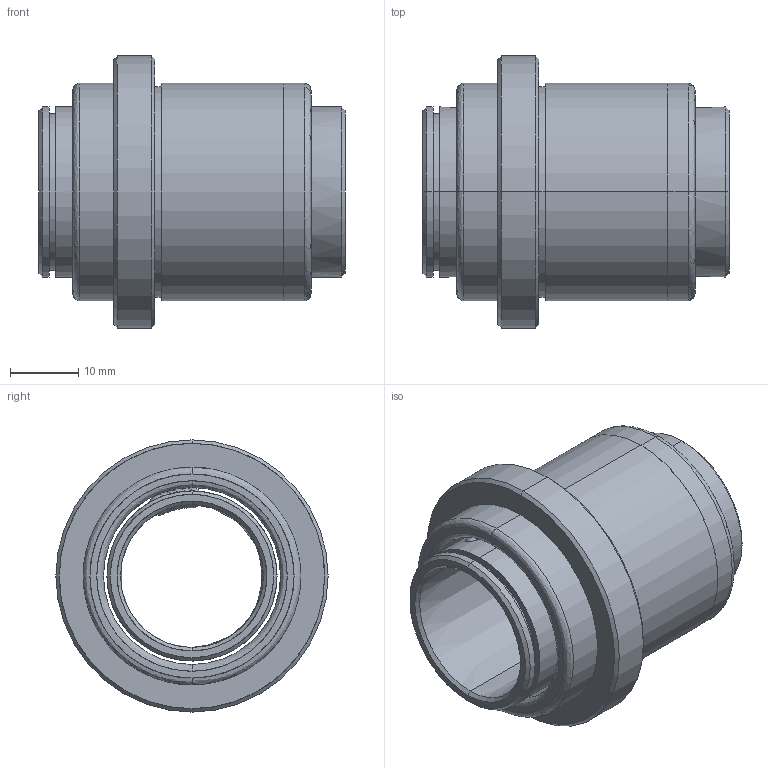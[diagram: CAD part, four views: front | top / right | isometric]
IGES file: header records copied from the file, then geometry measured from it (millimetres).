
Start section: START RECORD GO HERE.
Global section: file name: 732-20.igs; native system: DASSAULT SYSTEMES CATIA V5 R20 - www.3ds.com; preprocessor: CATIA Version 5 Release 20 ; author: Utente; organization: NB04-ASUS; date: 20210110.203202; units: millimetre
Bounding box: 45 x 40 x 40 mm (x, y, z)
Surface area: 14705.6 mm2 (no closed solid volume)
Topology: 0 solids, 0 shells, 74 faces, 432 edges, 432 vertices
Faces by surface type: revolution 64, plane 10
